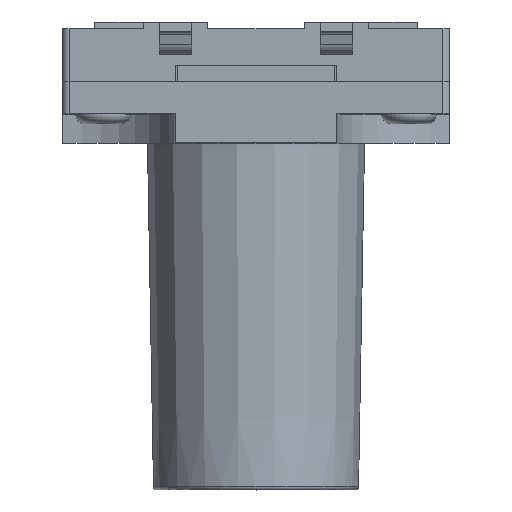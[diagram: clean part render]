
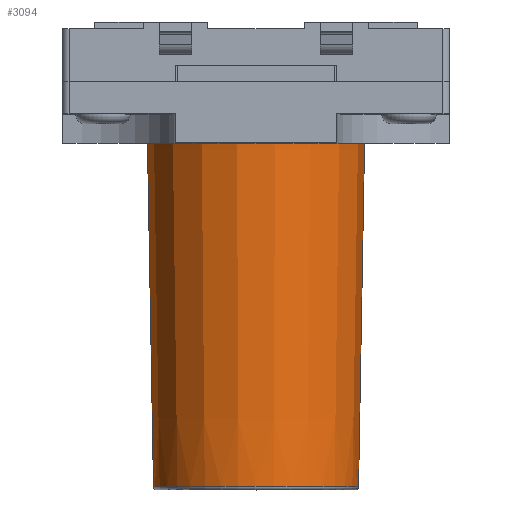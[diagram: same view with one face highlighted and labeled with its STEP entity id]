
A CAD part, top view. The second image highlights one B-rep face of the part: STEP entity #3094.
In plain terms, the highlighted conical face has half-angle 1 degrees and reference radius 3.291 mm.
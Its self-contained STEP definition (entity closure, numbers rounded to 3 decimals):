
#24=CARTESIAN_POINT('',(0.,0.,0.));
#25=DIRECTION('',(0.,-1.,0.));
#26=DIRECTION('',(1.,0.,0.));
#27=AXIS2_PLACEMENT_3D('',#24,#25,#26);
#276=CARTESIAN_POINT('',(0.,-12.552,0.));
#277=DIRECTION('',(0.,-1.,0.));
#278=DIRECTION('',(1.,0.,0.));
#279=AXIS2_PLACEMENT_3D('',#276,#277,#278);
#284=DIRECTION('',(-0.017,1.,0.));
#285=VECTOR('',#284,12.554);
#286=CARTESIAN_POINT('',(-3.181,-12.552,
0.));
#287=LINE('',#286,#285);
#331=DIRECTION('',(-0.017,-1.,0.));
#332=VECTOR('',#331,12.554);
#333=CARTESIAN_POINT('',(3.4,0.,0.));
#334=LINE('',#333,#332);
#2854=CARTESIAN_POINT('',(3.4,0.,0.));
#2855=CARTESIAN_POINT('',(-3.4,0.,0.));
#2856=VERTEX_POINT('',#2854);
#2857=VERTEX_POINT('',#2855);
#2958=CARTESIAN_POINT('',(-3.181,-12.552,0.));
#2959=CARTESIAN_POINT('',(3.181,-12.552,0.));
#2960=VERTEX_POINT('',#2958);
#2961=VERTEX_POINT('',#2959);
#3080=CARTESIAN_POINT('',(0.,-6.276,0.));
#3081=DIRECTION('',(0.,1.,0.));
#3082=DIRECTION('',(-1.,0.,0.));
#3083=AXIS2_PLACEMENT_3D('',#3080,#3081,#3082);
#3084=CONICAL_SURFACE('',#3083,3.29,1.);
#3086=ORIENTED_EDGE('',*,*,#3085,.T.);
#3088=ORIENTED_EDGE('',*,*,#3087,.T.);
#3089=ORIENTED_EDGE('',*,*,#3073,.F.);
#3091=ORIENTED_EDGE('',*,*,#3090,.T.);
#3092=EDGE_LOOP('',(#3086,#3088,#3089,#3091));
#3093=FACE_OUTER_BOUND('',#3092,.F.);
#28=CIRCLE('',#27,3.4);
#280=CIRCLE('',#279,3.181);
#3073=EDGE_CURVE('',#2856,#2857,#28,.T.);
#3085=EDGE_CURVE('',#2961,#2960,#280,.T.);
#3087=EDGE_CURVE('',#2960,#2857,#287,.T.);
#3090=EDGE_CURVE('',#2856,#2961,#334,.T.);
#3094=ADVANCED_FACE('',(#3093),#3084,.T.);
